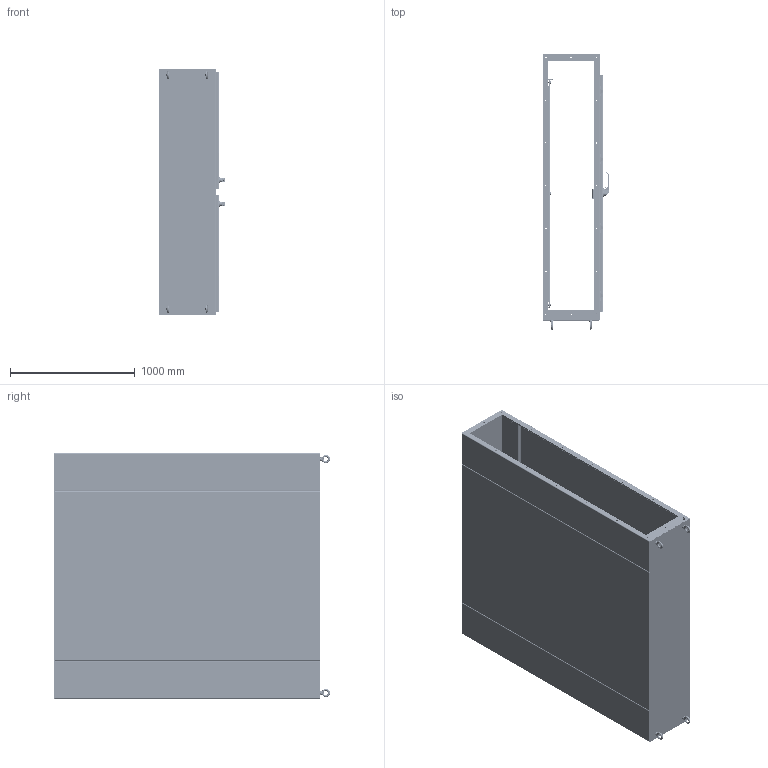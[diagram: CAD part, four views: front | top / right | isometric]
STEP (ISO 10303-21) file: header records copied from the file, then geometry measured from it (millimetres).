
FILE_DESCRIPTION((''),'2;1');
FILE_NAME('MODEL-603_ASM','2024-04-11T14:46:36',('joshi'),('SAGINAW CONTROL & ENGINEERING'),'CREO PARAMETRIC BY PTC INC, 2021284','CREO PARAMETRIC BY PTC INC, 2021284','');
FILE_SCHEMA(('AUTOMOTIVE_DESIGN { 1 0 10303 214 1 1 1 1 }'));
Length unit declared in the file: inch
Products named in the file (111): MODEL-603-MID-R-SD; MODEL-603-MID-TP; MODEL-603-MID-L-SD; MODEL-603-MID-BTM; MODEL-603-MID-BCK; MODEL-603-RH-DR; 100837; 100956_HANDLE; 100956_HANDLE_INSERT; 100956_SHAFT_CAM; 100956_ADAPTER_CAM; 100956_NUT_CAM; 100956_BASE; 100956_O-RING; 100956_WASHER_SEALING; 100956_NUT_MOUNTING_LARGE; 100956_NUT_MOUNTING_SMALL; 100956_SCREW_SMALL; 100956_PADLOCK_CATCH; 100956_STOP_CAM; 100956_ASM; 102236; 100030; 102236_ASM; MODEL-603-ROD-UPR-RHD; 128146; 128145; 128144; 102482; MODEL-603-ROD-UPR-RHD_ASM; 128143; 100882; 112504; MODEL-603-ROD-LWR-RHD; MODEL-603-ROD-LWR-RHD_ASM; MODEL-603-PR-GSKT-RHD; 128257; 128257_ASM; 126393; 102483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
Assembly tree (259 placements, depth 4):
  MODEL-603_ASM
    MODEL-603-MID-R-SD
    MODEL-603-MID-TP
    MODEL-603-MID-L-SD
    MODEL-603-MID-BTM
    MODEL-603-MID-BCK
    MODEL-603-RH-DOOR-ASSY_ASM
      MODEL-603-RH-DR
      100837  x3
      100956_ASM
        100956_HANDLE
        100956_HANDLE_INSERT
        100956_SHAFT_CAM
        100956_ADAPTER_CAM
        100956_NUT_CAM
        100956_BASE
        100956_O-RING
        100956_WASHER_SEALING
        100956_NUT_MOUNTING_LARGE
        100956_NUT_MOUNTING_SMALL
        100956_SCREW_SMALL
        100956_PADLOCK_CATCH
        100956_STOP_CAM
      102236_ASM
        102236
        100030  x2
      MODEL-603-ROD-UPR-RHD_ASM
        MODEL-603-ROD-UPR-RHD
        128146
        128145
        128144
        102482  x2
      128143  x2
      100882  x10
      112504  x2
      MODEL-603-ROD-LWR-RHD_ASM
        MODEL-603-ROD-LWR-RHD
        128146
        128145
        128144
        102482  x2
      MODEL-603-PR-GSKT-RHD
      128257_ASM  x4
        128257
      126393  x4
      102483  x4
      101369_ASM  x4
        101369
        101369-STUD
      101221  x4
    MODEL-603-LH-DOOR-ASSY_ASM
      MODEL-603-LH-DR
      100837  x3
      100956_ASM
        100956_HANDLE
        100956_HANDLE_INSERT
        100956_SHAFT_CAM
        100956_ADAPTER_CAM
        100956_NUT_CAM
        100956_BASE
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Bounding box: 534.57 x 2208.4 x 1974.85 mm (x, y, z)
Volume: 50173399.2 mm3; surface area: 32806074.6 mm2
Topology: 301 solids, 301 shells, 21277 faces, 54897 edges, 34201 vertices
Faces by surface type: plane 7731, cylinder 5918, bspline 4536, torus 1284, cone 1264, sphere 544
Entity records: 339574 total; most frequent: CARTESIAN_POINT 117674, ORIENTED_EDGE 32566, DIRECTION 31306, PRESENTATION_STYLE_ASSIGNMENT 16570, STYLED_ITEM 16357, EDGE_CURVE 16283, CURVE_STYLE 16235, AXIS2_PLACEMENT_3D 11616
